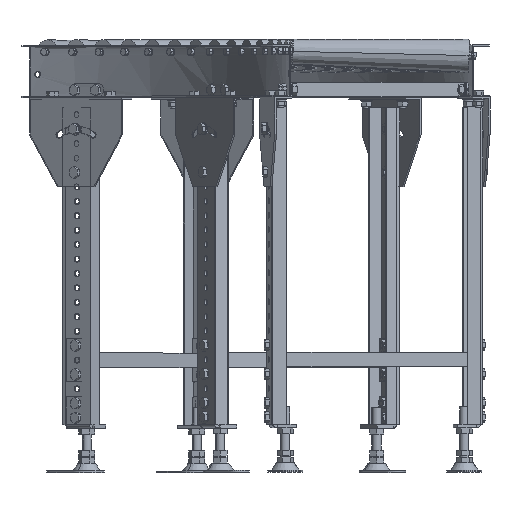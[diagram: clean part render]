
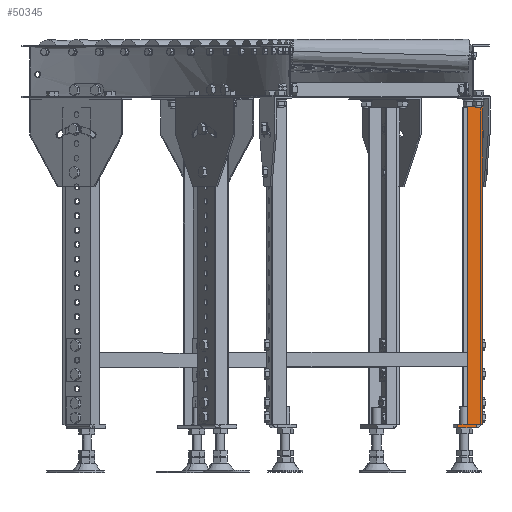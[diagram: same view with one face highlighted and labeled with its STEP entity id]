
A CAD part, top view. The second image highlights one B-rep face of the part: STEP entity #50345.
In plain terms, the highlighted planar face has unit normal (0.131, 0, 0.991).
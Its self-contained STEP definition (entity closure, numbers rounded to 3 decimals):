
#2982 = VECTOR ( 'NONE', #110261, 1000. ) ;
#3690 = CARTESIAN_POINT ( 'NONE',  ( 1233.595, -117.5, -132.147 ) ) ;
#4438 = DIRECTION ( 'NONE',  ( 0., -1., 0. ) ) ;
#11877 = VECTOR ( 'NONE', #119369, 1000. ) ;
#12587 = CARTESIAN_POINT ( 'NONE',  ( 1233.595, -117.5, -132.147 ) ) ;
#14229 = CARTESIAN_POINT ( 'NONE',  ( 1206.826, -117.5, -128.623 ) ) ;
#15678 = DIRECTION ( 'NONE',  ( 0., -1., 0. ) ) ;
#19493 = VECTOR ( 'NONE', #15678, 1000. ) ;
#19677 = LINE ( 'NONE', #55694, #59097 ) ;
#19848 = ORIENTED_EDGE ( 'NONE', *, *, #135003, .F. ) ;
#22562 = DIRECTION ( 'NONE',  ( 0.991, 0., -0.131 ) ) ;
#23727 = VERTEX_POINT ( 'NONE', #106769 ) ;
#24304 = CARTESIAN_POINT ( 'NONE',  ( 1206.826, -117.5, -128.623 ) ) ;
#26182 = DIRECTION ( 'NONE',  ( 0., -1., 0. ) ) ;
#29025 = CARTESIAN_POINT ( 'NONE',  ( 1233.595, -155.299, -132.147 ) ) ;
#31130 = LINE ( 'NONE', #14229, #77649 ) ;
#31541 = DIRECTION ( 'NONE',  ( 0., -1., 0. ) ) ;
#33405 = VERTEX_POINT ( 'NONE', #127922 ) ;
#36983 = LINE ( 'NONE', #132757, #2982 ) ;
#37553 = ORIENTED_EDGE ( 'NONE', *, *, #59769, .T. ) ;
#43589 = ORIENTED_EDGE ( 'NONE', *, *, #104726, .T. ) ;
#47721 = VERTEX_POINT ( 'NONE', #66993 ) ;
#48170 = DIRECTION ( 'NONE',  ( 0., -1., 0. ) ) ;
#48692 = EDGE_CURVE ( 'NONE', #100744, #118923, #19677, .T. ) ;
#50345 = ADVANCED_FACE ( 'NONE', ( #137156 ), #83367, .F. ) ;
#55694 = CARTESIAN_POINT ( 'NONE',  ( 1206.826, -117.5, -128.623 ) ) ;
#55959 = ORIENTED_EDGE ( 'NONE', *, *, #131073, .F. ) ;
#57783 = VERTEX_POINT ( 'NONE', #29025 ) ;
#59097 = VECTOR ( 'NONE', #22562, 1000. ) ;
#59159 = VERTEX_POINT ( 'NONE', #82414 ) ;
#59179 = CARTESIAN_POINT ( 'NONE',  ( 1233.595, -117.5, -132.147 ) ) ;
#59769 = EDGE_CURVE ( 'NONE', #100744, #105667, #31130, .T. ) ;
#63484 = CARTESIAN_POINT ( 'NONE',  ( 1222.491, -673.5, -130.685 ) ) ;
#63575 = ORIENTED_EDGE ( 'NONE', *, *, #66615, .F. ) ;
#65053 = CARTESIAN_POINT ( 'NONE',  ( 1206.826, -667.5, -128.623 ) ) ;
#66615 = EDGE_CURVE ( 'NONE', #98416, #85561, #98048, .T. ) ;
#66817 = ORIENTED_EDGE ( 'NONE', *, *, #119430, .F. ) ;
#66993 = CARTESIAN_POINT ( 'NONE',  ( 1189.773, -667.5, -126.378 ) ) ;
#67632 = VECTOR ( 'NONE', #31541, 1000. ) ;
#69186 = LINE ( 'NONE', #96471, #11877 ) ;
#73045 = LINE ( 'NONE', #143273, #101743 ) ;
#73065 = VECTOR ( 'NONE', #4438, 1000. ) ;
#73331 = CARTESIAN_POINT ( 'NONE',  ( 1206.826, -117.5, -128.623 ) ) ;
#77649 = VECTOR ( 'NONE', #26182, 1000. ) ;
#79734 = VECTOR ( 'NONE', #48170, 1000. ) ;
#81181 = ORIENTED_EDGE ( 'NONE', *, *, #129424, .F. ) ;
#82414 = CARTESIAN_POINT ( 'NONE',  ( 1189.773, -673.5, -126.378 ) ) ;
#82572 = CARTESIAN_POINT ( 'NONE',  ( 1206.826, -667.5, -128.623 ) ) ;
#83043 = LINE ( 'NONE', #82572, #125904 ) ;
#83084 = ORIENTED_EDGE ( 'NONE', *, *, #122088, .T. ) ;
#83367 = PLANE ( 'NONE',  #94145 ) ;
#83873 = ORIENTED_EDGE ( 'NONE', *, *, #48692, .F. ) ;
#84537 = DIRECTION ( 'NONE',  ( 0.991, 0., -0.131 ) ) ;
#85561 = VERTEX_POINT ( 'NONE', #63484 ) ;
#94145 = AXIS2_PLACEMENT_3D ( 'NONE', #73331, #96368, #94420 ) ;
#94420 = DIRECTION ( 'NONE',  ( -0.991, 0., 0.131 ) ) ;
#95864 = DIRECTION ( 'NONE',  ( 0., -1., 0. ) ) ;
#96368 = DIRECTION ( 'NONE',  ( -0.131, 0., -0.991 ) ) ;
#96471 = CARTESIAN_POINT ( 'NONE',  ( 1189.773, -673.5, -126.378 ) ) ;
#97088 = EDGE_CURVE ( 'NONE', #105667, #47721, #36983, .T. ) ;
#98048 = LINE ( 'NONE', #144112, #67632 ) ;
#98416 = VERTEX_POINT ( 'NONE', #99620 ) ;
#99620 = CARTESIAN_POINT ( 'NONE',  ( 1222.491, -667.5, -130.685 ) ) ;
#100744 = VERTEX_POINT ( 'NONE', #24304 ) ;
#101743 = VECTOR ( 'NONE', #95864, 1000. ) ;
#102357 = EDGE_LOOP ( 'NONE', ( #37553, #144227, #43589, #66817, #63575, #83084, #19848, #81181, #147272, #55959, #83873 ) ) ;
#103005 = CARTESIAN_POINT ( 'NONE',  ( 1189.773, -667.5, -126.378 ) ) ;
#104726 = EDGE_CURVE ( 'NONE', #47721, #59159, #107075, .T. ) ;
#105667 = VERTEX_POINT ( 'NONE', #65053 ) ;
#106276 = VECTOR ( 'NONE', #114312, 1000. ) ;
#106769 = CARTESIAN_POINT ( 'NONE',  ( 1233.595, -167.308, -132.147 ) ) ;
#107075 = LINE ( 'NONE', #103005, #73065 ) ;
#110261 = DIRECTION ( 'NONE',  ( -0.991, 0., 0.131 ) ) ;
#113687 = VERTEX_POINT ( 'NONE', #145011 ) ;
#114312 = DIRECTION ( 'NONE',  ( 0., -1., 0. ) ) ;
#115290 = CARTESIAN_POINT ( 'NONE',  ( 1233.595, -117.5, -132.147 ) ) ;
#118923 = VERTEX_POINT ( 'NONE', #12587 ) ;
#119369 = DIRECTION ( 'NONE',  ( -0.991, 0., 0.131 ) ) ;
#119430 = EDGE_CURVE ( 'NONE', #85561, #59159, #69186, .T. ) ;
#122088 = EDGE_CURVE ( 'NONE', #98416, #113687, #83043, .T. ) ;
#122532 = LINE ( 'NONE', #59179, #79734 ) ;
#125904 = VECTOR ( 'NONE', #84537, 1000. ) ;
#127922 = CARTESIAN_POINT ( 'NONE',  ( 1233.595, -255., -132.147 ) ) ;
#129424 = EDGE_CURVE ( 'NONE', #23727, #33405, #145548, .T. ) ;
#131073 = EDGE_CURVE ( 'NONE', #118923, #57783, #73045, .T. ) ;
#132757 = CARTESIAN_POINT ( 'NONE',  ( 1189.773, -667.5, -126.378 ) ) ;
#135003 = EDGE_CURVE ( 'NONE', #33405, #113687, #139345, .T. ) ;
#137156 = FACE_OUTER_BOUND ( 'NONE', #102357, .T. ) ;
#139345 = LINE ( 'NONE', #3690, #19493 ) ;
#143273 = CARTESIAN_POINT ( 'NONE',  ( 1233.595, -117.5, -132.147 ) ) ;
#144112 = CARTESIAN_POINT ( 'NONE',  ( 1222.491, -667.5, -130.685 ) ) ;
#144227 = ORIENTED_EDGE ( 'NONE', *, *, #97088, .T. ) ;
#145011 = CARTESIAN_POINT ( 'NONE',  ( 1233.595, -667.5, -132.147 ) ) ;
#145548 = LINE ( 'NONE', #115290, #106276 ) ;
#147272 = ORIENTED_EDGE ( 'NONE', *, *, #147556, .F. ) ;
#147556 = EDGE_CURVE ( 'NONE', #57783, #23727, #122532, .T. ) ;
